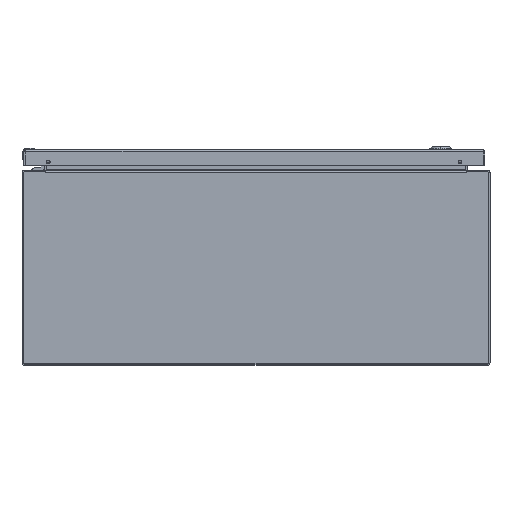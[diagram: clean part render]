
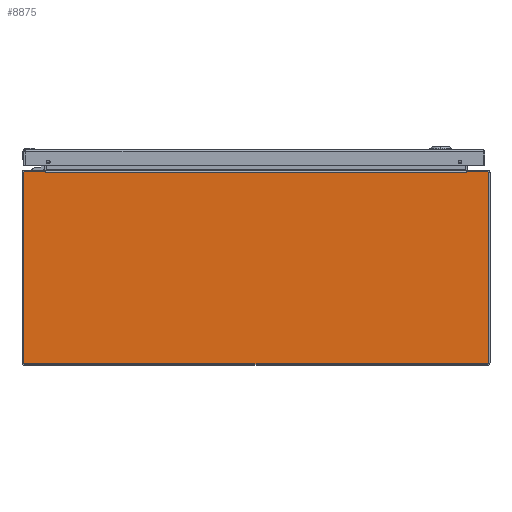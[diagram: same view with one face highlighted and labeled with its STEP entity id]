
A CAD part, front view. The second image highlights one B-rep face of the part: STEP entity #8875.
In plain terms, the highlighted planar face has unit normal (0, -1, 0).
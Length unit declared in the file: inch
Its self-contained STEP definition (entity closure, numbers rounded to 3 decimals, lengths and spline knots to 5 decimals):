
#7658=CARTESIAN_POINT('',(-11.857,0.,4.857));
#7659=DIRECTION('',(0.,-1.,0.));
#7660=DIRECTION('',(0.,0.,1.));
#7661=AXIS2_PLACEMENT_3D('',#7658,#7659,#7660);
#7666=DIRECTION('',(-1.,0.,0.));
#7667=VECTOR('',#7666,1.03388);
#7668=CARTESIAN_POINT('',(-10.82312,0.,4.937));
#7669=LINE('',#7668,#7667);
#7673=DIRECTION('',(0.174,0.,-0.985));
#7674=VECTOR('',#7673,0.05483);
#7675=CARTESIAN_POINT('',(-10.82312,0.,4.937));
#7676=LINE('',#7675,#7674);
#7680=DIRECTION('',(-1.,0.,0.));
#7681=VECTOR('',#7680,0.0156);
#7682=CARTESIAN_POINT('',(-10.798,0.,4.883));
#7683=LINE('',#7682,#7681);
#7687=DIRECTION('',(1.,0.,0.));
#7688=VECTOR('',#7687,0.0156);
#7689=CARTESIAN_POINT('',(10.798,0.,4.883));
#7690=LINE('',#7689,#7688);
#7694=DIRECTION('',(-0.174,0.,-0.985));
#7695=VECTOR('',#7694,0.05483);
#7696=CARTESIAN_POINT('',(10.82312,0.,4.937));
#7697=LINE('',#7696,#7695);
#7701=DIRECTION('',(-1.,0.,0.));
#7702=VECTOR('',#7701,1.03388);
#7703=CARTESIAN_POINT('',(11.857,0.,4.937));
#7704=LINE('',#7703,#7702);
#7708=CARTESIAN_POINT('',(11.857,0.,4.857));
#7709=DIRECTION('',(0.,-1.,0.));
#7710=DIRECTION('',(1.,0.,0.));
#7711=AXIS2_PLACEMENT_3D('',#7708,#7709,#7710);
#7716=DIRECTION('',(0.,0.,1.));
#7717=VECTOR('',#7716,9.714);
#7718=CARTESIAN_POINT('',(11.937,0.,-4.857));
#7719=LINE('',#7718,#7717);
#7723=CARTESIAN_POINT('',(11.857,0.,-4.857));
#7724=DIRECTION('',(0.,-1.,0.));
#7725=DIRECTION('',(0.,0.,-1.));
#7726=AXIS2_PLACEMENT_3D('',#7723,#7724,#7725);
#7731=DIRECTION('',(1.,0.,0.));
#7732=VECTOR('',#7731,23.714);
#7733=CARTESIAN_POINT('',(-11.857,0.,-4.937));
#7734=LINE('',#7733,#7732);
#7738=CARTESIAN_POINT('',(-11.857,0.,-4.857));
#7739=DIRECTION('',(0.,-1.,0.));
#7740=DIRECTION('',(-1.,0.,0.));
#7741=AXIS2_PLACEMENT_3D('',#7738,#7739,#7740);
#7746=DIRECTION('',(0.,0.,-1.));
#7747=VECTOR('',#7746,9.714);
#7748=CARTESIAN_POINT('',(-11.937,0.,4.857));
#7749=LINE('',#7748,#7747);
#8027=DIRECTION('',(1.,0.,0.));
#8028=VECTOR('',#8027,21.596);
#8029=CARTESIAN_POINT('',(-10.798,0.,4.883));
#8030=LINE('',#8029,#8028);
#8688=CARTESIAN_POINT('',(10.798,0.,4.883));
#8689=CARTESIAN_POINT('',(10.8136,0.,4.883));
#8690=VERTEX_POINT('',#8688);
#8691=VERTEX_POINT('',#8689);
#8692=CARTESIAN_POINT('',(10.82312,0.,4.937));
#8693=VERTEX_POINT('',#8692);
#8700=CARTESIAN_POINT('',(-10.798,0.,4.883));
#8701=CARTESIAN_POINT('',(-10.8136,0.,4.883));
#8702=VERTEX_POINT('',#8700);
#8703=VERTEX_POINT('',#8701);
#8704=CARTESIAN_POINT('',(-10.82312,0.,4.937));
#8705=VERTEX_POINT('',#8704);
#8764=CARTESIAN_POINT('',(-11.857,0.,4.937));
#8765=CARTESIAN_POINT('',(-11.937,0.,4.857));
#8766=VERTEX_POINT('',#8764);
#8767=VERTEX_POINT('',#8765);
#8772=CARTESIAN_POINT('',(-11.937,0.,-4.857));
#8773=CARTESIAN_POINT('',(-11.857,0.,-4.937));
#8774=VERTEX_POINT('',#8772);
#8775=VERTEX_POINT('',#8773);
#8780=CARTESIAN_POINT('',(11.857,0.,-4.937));
#8781=CARTESIAN_POINT('',(11.937,0.,-4.857));
#8782=VERTEX_POINT('',#8780);
#8783=VERTEX_POINT('',#8781);
#8788=CARTESIAN_POINT('',(11.937,0.,4.857));
#8789=CARTESIAN_POINT('',(11.857,0.,4.937));
#8790=VERTEX_POINT('',#8788);
#8791=VERTEX_POINT('',#8789);
#8840=CARTESIAN_POINT('',(0.,0.,0.));
#8841=DIRECTION('',(0.,-1.,0.));
#8842=DIRECTION('',(-1.,0.,0.));
#8843=AXIS2_PLACEMENT_3D('',#8840,#8841,#8842);
#8844=PLANE('',#8843);
#8846=ORIENTED_EDGE('',*,*,#8845,.F.);
#8848=ORIENTED_EDGE('',*,*,#8847,.F.);
#8850=ORIENTED_EDGE('',*,*,#8849,.T.);
#8852=ORIENTED_EDGE('',*,*,#8851,.F.);
#8854=ORIENTED_EDGE('',*,*,#8853,.T.);
#8856=ORIENTED_EDGE('',*,*,#8855,.T.);
#8858=ORIENTED_EDGE('',*,*,#8857,.F.);
#8860=ORIENTED_EDGE('',*,*,#8859,.F.);
#8862=ORIENTED_EDGE('',*,*,#8861,.F.);
#8864=ORIENTED_EDGE('',*,*,#8863,.F.);
#8866=ORIENTED_EDGE('',*,*,#8865,.F.);
#8868=ORIENTED_EDGE('',*,*,#8867,.F.);
#8870=ORIENTED_EDGE('',*,*,#8869,.F.);
#8872=ORIENTED_EDGE('',*,*,#8871,.F.);
#8873=EDGE_LOOP('',(#8846,#8848,#8850,#8852,#8854,#8856,#8858,#8860,#8862,#8864,
#8866,#8868,#8870,#8872));
#8874=FACE_OUTER_BOUND('',#8873,.F.);
#7662=CIRCLE('',#7661,0.08);
#7712=CIRCLE('',#7711,0.08);
#7727=CIRCLE('',#7726,0.08);
#7742=CIRCLE('',#7741,0.08);
#8845=EDGE_CURVE('',#8766,#8767,#7662,.T.);
#8847=EDGE_CURVE('',#8705,#8766,#7669,.T.);
#8849=EDGE_CURVE('',#8705,#8703,#7676,.T.);
#8851=EDGE_CURVE('',#8702,#8703,#7683,.T.);
#8853=EDGE_CURVE('',#8702,#8690,#8030,.T.);
#8855=EDGE_CURVE('',#8690,#8691,#7690,.T.);
#8857=EDGE_CURVE('',#8693,#8691,#7697,.T.);
#8859=EDGE_CURVE('',#8791,#8693,#7704,.T.);
#8861=EDGE_CURVE('',#8790,#8791,#7712,.T.);
#8863=EDGE_CURVE('',#8783,#8790,#7719,.T.);
#8865=EDGE_CURVE('',#8782,#8783,#7727,.T.);
#8867=EDGE_CURVE('',#8775,#8782,#7734,.T.);
#8869=EDGE_CURVE('',#8774,#8775,#7742,.T.);
#8871=EDGE_CURVE('',#8767,#8774,#7749,.T.);
#8875=ADVANCED_FACE('',(#8874),#8844,.T.);
